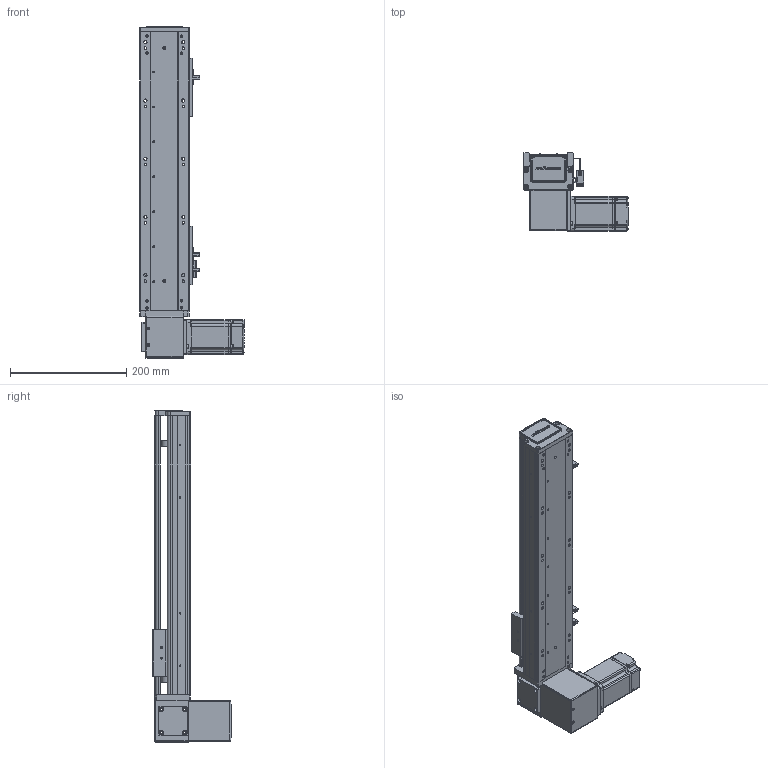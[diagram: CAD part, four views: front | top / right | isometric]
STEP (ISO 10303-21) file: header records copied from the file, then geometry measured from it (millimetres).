
FILE_DESCRIPTION (( 'STEP AP203' ), '1' );
FILE_NAME ('RY80-T-300-DR.SLDASM_300.step', '2021-03-01T01:48:52', ( '盈信电脑' ), ( '东莞市道滘镇水果街19号' ), 'SwSTEP 2.0', 'SolidWorks 2012', '' );
FILE_SCHEMA (( 'CONFIG_CONTROL_DESIGN' ));
Products named in the file (19): RY80-T-M4蹟翐3; RY80-T-300-DR.SLDASM_300; 1; RY80-T-上下折同步轮盖板; RY80-T萇儂假蚾啣; RY80-T肮祭謫狟殏俋欶; 滅袉蝶18-10; RY80-T粣創揤踡輸; RY80-T肮祭湍揤輸2; RY80-T翋肮祭謫裔啣; RY80-T肮祭湍揤輸1; RY80-T-翋肮祭謫釱; RY80俋离覜茼え; 覜茼ん672; 672嫖萇羲壽假蚾釱; RY80-T綴裔啣; RY80-T肮祭謫臏賑輸; RY80-T-300-DR倰第奻裔啣; RY80-T-300-DR倰第菁釱
Assembly tree (23 placements, depth 2):
  RY80-T-300-DR.SLDASM_300
    RY80-T-300-DR倰第菁釱
    RY80-T肮祭謫臏賑輸
    RY80-T-300-DR倰第奻裔啣
    RY80-T綴裔啣
    672嫖萇羲壽假蚾釱  x2
    覜茼ん672  x3
    RY80俋离覜茼え
    RY80-T-翋肮祭謫釱
    RY80-T肮祭湍揤輸1
    RY80-T肮祭湍揤輸2
    RY80-T粣創揤踡輸
    RY80-T翋肮祭謫裔啣  x2
    滅袉蝶18-10  x2
    RY80-T-上下折同步轮盖板
    RY80-T肮祭謫狟殏俋欶
    RY80-T萇儂假蚾啣
    1
    RY80-T-M4蹟翐3
Bounding box: 180 x 134.5 x 570 mm (x, y, z)
Volume: 1276920 mm3; surface area: 513758.1 mm2
Topology: 23 solids, 23 shells, 2378 faces, 6535 edges, 4244 vertices
Faces by surface type: plane 1318, cylinder 866, cone 138, bspline 56
Entity records: 74253 total; most frequent: CARTESIAN_POINT 17397, ORIENTED_EDGE 11618, DIRECTION 11012, EDGE_CURVE 5809, VERTEX_POINT 3816, VECTOR 3678, LINE 3678, AXIS2_PLACEMENT_3D 3667
